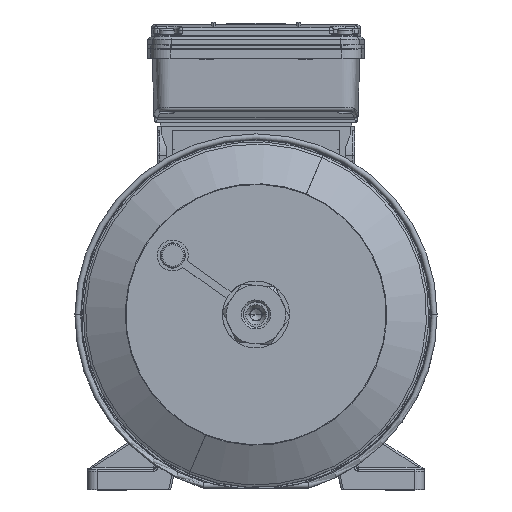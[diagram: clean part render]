
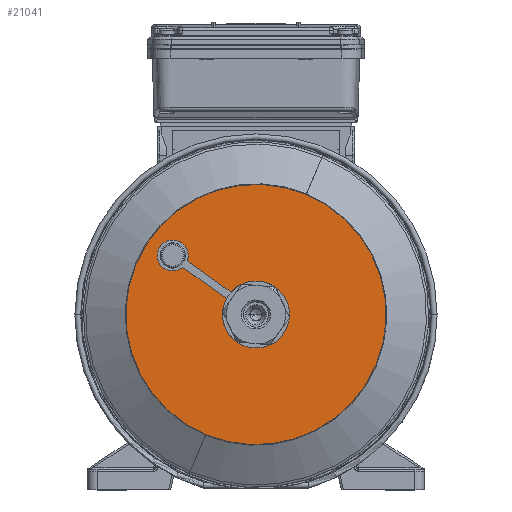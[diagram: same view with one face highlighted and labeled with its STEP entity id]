
A CAD part, top view. The second image highlights one B-rep face of the part: STEP entity #21041.
In plain terms, the highlighted planar face has unit normal (0, 0, 1) as drawn and (0, -1, 0) by its records, which use the part's own axes.
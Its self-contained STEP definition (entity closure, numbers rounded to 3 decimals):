
#1320 = CARTESIAN_POINT ( 'NONE',  ( -13.5, 0., 0. ) ) ;
#4085 = EDGE_CURVE ( 'NONE', #114705, #119615, #38794, .T. ) ;
#6788 = VERTEX_POINT ( 'NONE', #31924 ) ;
#9472 = AXIS2_PLACEMENT_3D ( 'NONE', #19103, #98495, #30512 ) ;
#11605 = AXIS2_PLACEMENT_3D ( 'NONE', #49539, #129090, #60961 ) ;
#11819 = CIRCLE ( 'NONE', #11605, 67.5 ) ;
#16925 = ORIENTED_EDGE ( 'NONE', *, *, #4085, .F. ) ;
#19103 = CARTESIAN_POINT ( 'NONE',  ( 0., 0., 0. ) ) ;
#20481 = AXIS2_PLACEMENT_3D ( 'NONE', #36165, #115614, #47567 ) ;
#21041 = ADVANCED_FACE ( 'NONE', ( #85533, #55316 ), #126458, .T. ) ;
#23012 = CIRCLE ( 'NONE', #20481, 13.5 ) ;
#26678 = VERTEX_POINT ( 'NONE', #119686 ) ;
#30512 = DIRECTION ( 'NONE',  ( 0., 0., 1. ) ) ;
#31924 = CARTESIAN_POINT ( 'NONE',  ( 0., 0., 13.5 ) ) ;
#33312 = ORIENTED_EDGE ( 'NONE', *, *, #76434, .T. ) ;
#33734 = AXIS2_PLACEMENT_3D ( 'NONE', #42261, #121794, #53754 ) ;
#36165 = CARTESIAN_POINT ( 'NONE',  ( 0., 0., 0. ) ) ;
#38794 = CIRCLE ( 'NONE', #9472, 67.5 ) ;
#42261 = CARTESIAN_POINT ( 'NONE',  ( 0., 0., 0. ) ) ;
#45010 = EDGE_LOOP ( 'NONE', ( #79320, #16925 ) ) ;
#47471 = EDGE_LOOP ( 'NONE', ( #51290, #33312 ) ) ;
#47567 = DIRECTION ( 'NONE',  ( 0., 0., 1. ) ) ;
#49539 = CARTESIAN_POINT ( 'NONE',  ( 0., 0., 0. ) ) ;
#51290 = ORIENTED_EDGE ( 'NONE', *, *, #77088, .T. ) ;
#53754 = DIRECTION ( 'NONE',  ( 0., 0., 1. ) ) ;
#55316 = FACE_OUTER_BOUND ( 'NONE', #45010, .T. ) ;
#58363 = DIRECTION ( 'NONE',  ( 0., -1., 0. ) ) ;
#60961 = DIRECTION ( 'NONE',  ( 0., 0., 1. ) ) ;
#64543 = AXIS2_PLACEMENT_3D ( 'NONE', #1320, #58363, #137904 ) ;
#76434 = EDGE_CURVE ( 'NONE', #26678, #6788, #104942, .T. ) ;
#77088 = EDGE_CURVE ( 'NONE', #6788, #26678, #23012, .T. ) ;
#79320 = ORIENTED_EDGE ( 'NONE', *, *, #135313, .F. ) ;
#85533 = FACE_BOUND ( 'NONE', #47471, .T. ) ;
#93897 = CARTESIAN_POINT ( 'NONE',  ( 0., 0., -67.5 ) ) ;
#98495 = DIRECTION ( 'NONE',  ( 0., 1., 0. ) ) ;
#103892 = CARTESIAN_POINT ( 'NONE',  ( 0., 0., 67.5 ) ) ;
#104942 = CIRCLE ( 'NONE', #33734, 13.5 ) ;
#114705 = VERTEX_POINT ( 'NONE', #93897 ) ;
#115614 = DIRECTION ( 'NONE',  ( 0., 1., 0. ) ) ;
#119615 = VERTEX_POINT ( 'NONE', #103892 ) ;
#119686 = CARTESIAN_POINT ( 'NONE',  ( 0., 0., -13.5 ) ) ;
#121794 = DIRECTION ( 'NONE',  ( 0., 1., 0. ) ) ;
#126458 = PLANE ( 'NONE',  #64543 ) ;
#129090 = DIRECTION ( 'NONE',  ( 0., 1., 0. ) ) ;
#135313 = EDGE_CURVE ( 'NONE', #119615, #114705, #11819, .T. ) ;
#137904 = DIRECTION ( 'NONE',  ( 0., 0., -1. ) ) ;
